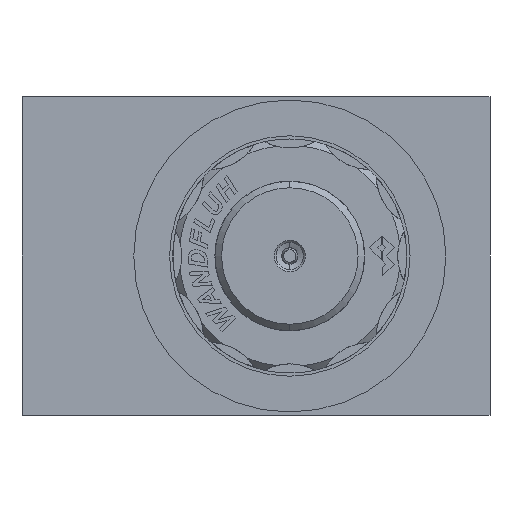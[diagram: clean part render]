
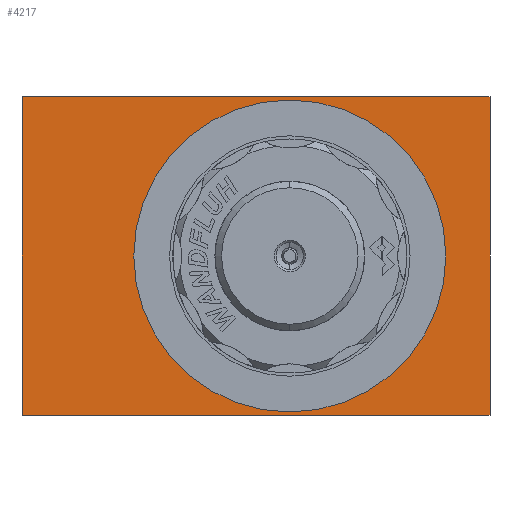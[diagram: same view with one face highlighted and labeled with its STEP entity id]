
A CAD part, left-side view. The second image highlights one B-rep face of the part: STEP entity #4217.
In plain terms, the highlighted planar face has unit normal (-1, 0, 0).
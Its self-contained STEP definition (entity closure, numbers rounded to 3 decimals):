
#686 = AXIS2_PLACEMENT_3D ( 'NONE', #19753, #40828, #43830 ) ;
#1119 = VERTEX_POINT ( 'NONE', #12729 ) ;
#1679 = CARTESIAN_POINT ( 'NONE',  ( -49., -5.2, -14.5 ) ) ;
#1760 = VECTOR ( 'NONE', #34148, 1000. ) ;
#3339 = DIRECTION ( 'NONE',  ( 1., 0., 0. ) ) ;
#4217 = ADVANCED_FACE ( 'NONE', ( #10764, #39028 ), #32076, .F. ) ;
#4343 = CARTESIAN_POINT ( 'NONE',  ( -49., 36., 24.5 ) ) ;
#8528 = LINE ( 'NONE', #43046, #20083 ) ;
#8661 = CARTESIAN_POINT ( 'NONE',  ( -49., -5.2, 0. ) ) ;
#9401 = AXIS2_PLACEMENT_3D ( 'NONE', #34639, #3339, #41825 ) ;
#10111 = ORIENTED_EDGE ( 'NONE', *, *, #45270, .T. ) ;
#10764 = FACE_BOUND ( 'NONE', #22815, .T. ) ;
#12729 = CARTESIAN_POINT ( 'NONE',  ( -49., 36., -24.5 ) ) ;
#15259 = DIRECTION ( 'NONE',  ( 0., 0., 1. ) ) ;
#15906 = VERTEX_POINT ( 'NONE', #36396 ) ;
#16561 = CARTESIAN_POINT ( 'NONE',  ( -49., 36., -24.5 ) ) ;
#18810 = VECTOR ( 'NONE', #22704, 1000. ) ;
#18966 = LINE ( 'NONE', #4343, #36629 ) ;
#18988 = VERTEX_POINT ( 'NONE', #1679 ) ;
#19753 = CARTESIAN_POINT ( 'NONE',  ( -49., -5.2, 0. ) ) ;
#20010 = DIRECTION ( 'NONE',  ( 0., 0., -1. ) ) ;
#20083 = VECTOR ( 'NONE', #15259, 1000. ) ;
#21442 = CIRCLE ( 'NONE', #686, 14.5 ) ;
#22704 = DIRECTION ( 'NONE',  ( 0., 0., 1. ) ) ;
#22815 = EDGE_LOOP ( 'NONE', ( #33205, #45290 ) ) ;
#23466 = VERTEX_POINT ( 'NONE', #39682 ) ;
#23991 = ORIENTED_EDGE ( 'NONE', *, *, #36295, .T. ) ;
#24001 = EDGE_CURVE ( 'NONE', #29459, #27981, #18966, .T. ) ;
#25943 = LINE ( 'NONE', #26180, #18810 ) ;
#26180 = CARTESIAN_POINT ( 'NONE',  ( -49., -36., 24.5 ) ) ;
#26738 = DIRECTION ( 'NONE',  ( 1., 0., 0. ) ) ;
#27111 = CARTESIAN_POINT ( 'NONE',  ( -49., 36., 24.5 ) ) ;
#27981 = VERTEX_POINT ( 'NONE', #38025 ) ;
#29459 = VERTEX_POINT ( 'NONE', #27111 ) ;
#30607 = EDGE_CURVE ( 'NONE', #18988, #15906, #21442, .T. ) ;
#32076 = PLANE ( 'NONE',  #9401 ) ;
#32615 = ORIENTED_EDGE ( 'NONE', *, *, #24001, .F. ) ;
#33205 = ORIENTED_EDGE ( 'NONE', *, *, #30607, .T. ) ;
#34148 = DIRECTION ( 'NONE',  ( 0., -1., 0. ) ) ;
#34639 = CARTESIAN_POINT ( 'NONE',  ( -49., 36., 24.5 ) ) ;
#36295 = EDGE_CURVE ( 'NONE', #23466, #27981, #25943, .T. ) ;
#36396 = CARTESIAN_POINT ( 'NONE',  ( -49., -5.2, 14.5 ) ) ;
#36629 = VECTOR ( 'NONE', #39350, 1000. ) ;
#37867 = LINE ( 'NONE', #16561, #1760 ) ;
#38025 = CARTESIAN_POINT ( 'NONE',  ( -49., -36., 24.5 ) ) ;
#39028 = FACE_OUTER_BOUND ( 'NONE', #43547, .T. ) ;
#39350 = DIRECTION ( 'NONE',  ( 0., -1., 0. ) ) ;
#39682 = CARTESIAN_POINT ( 'NONE',  ( -49., -36., -24.5 ) ) ;
#40662 = ORIENTED_EDGE ( 'NONE', *, *, #42219, .F. ) ;
#40828 = DIRECTION ( 'NONE',  ( 1., 0., 0. ) ) ;
#40837 = AXIS2_PLACEMENT_3D ( 'NONE', #8661, #26738, #20010 ) ;
#41825 = DIRECTION ( 'NONE',  ( 0., 0., -1. ) ) ;
#42219 = EDGE_CURVE ( 'NONE', #1119, #29459, #8528, .T. ) ;
#42867 = EDGE_CURVE ( 'NONE', #15906, #18988, #43039, .T. ) ;
#43039 = CIRCLE ( 'NONE', #40837, 14.5 ) ;
#43046 = CARTESIAN_POINT ( 'NONE',  ( -49., 36., 24.5 ) ) ;
#43547 = EDGE_LOOP ( 'NONE', ( #23991, #32615, #40662, #10111 ) ) ;
#43830 = DIRECTION ( 'NONE',  ( 0., 0., -1. ) ) ;
#45270 = EDGE_CURVE ( 'NONE', #1119, #23466, #37867, .T. ) ;
#45290 = ORIENTED_EDGE ( 'NONE', *, *, #42867, .T. ) ;
